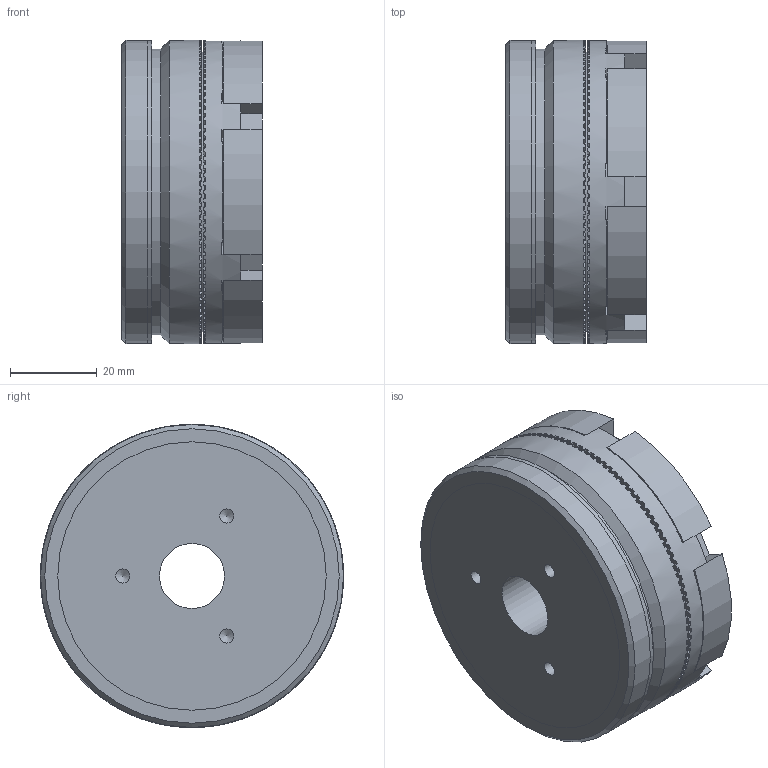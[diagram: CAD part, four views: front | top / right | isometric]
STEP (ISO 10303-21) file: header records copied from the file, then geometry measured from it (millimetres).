
FILE_DESCRIPTION(/* description */ (''),/* implementation_level */ '2;1');
FILE_NAME(/* name */ 'X:\INVENTOR\DISEGNI\07_Innesti_Elettmag_a_Dentini\07_01 EC_Z\07_01_070_01 EC070_Z\07_04_070_01 EC070_Z@STEP.stp',/* time_stamp */ '2017-02-01T16:28:26+01:00',/* author */ ('stefano'),/* organization */ (''),/* preprocessor_version */ 'ST-DEVELOPER v16.1',/* originating_system */ 'Autodesk Inventor 2016',/* authorisation */ '');
FILE_SCHEMA (('CONFIG_CONTROL_DESIGN'));
Length unit declared in the file: millimetre
Products named in the file (1): 07_04_070_01 EC070_Z_Substitute_1
Bounding box: 32.5 x 70 x 70 mm (x, y, z)
Volume: 107425.3 mm3; surface area: 27730.2 mm2
Topology: 2 solids, 2 shells, 1070 faces, 3145 edges, 2076 vertices
Faces by surface type: plane 1017, cylinder 39, cone 13, torus 1
Full cylindrical faces by diameter (mm): 2.459 x3, 3.242 x3, 4 x3, 4.5 x3, 6 x3, 6.5 x3, 15 x1, 25 x1, 26 x1, 36 x1, 41 x1, 57 x1, 62.5 x1, 64.5 x1, 65 x2, 66 x1, 70 x4
Entity records: 37447 total; most frequent: DIRECTION 7138, CARTESIAN_POINT 6253, ORIENTED_EDGE 6168, EDGE_CURVE 3084, AXIS2_PLACEMENT_3D 3001, VERTEX_POINT 2062, ELLIPSE 1344, EDGE_LOOP 1142
